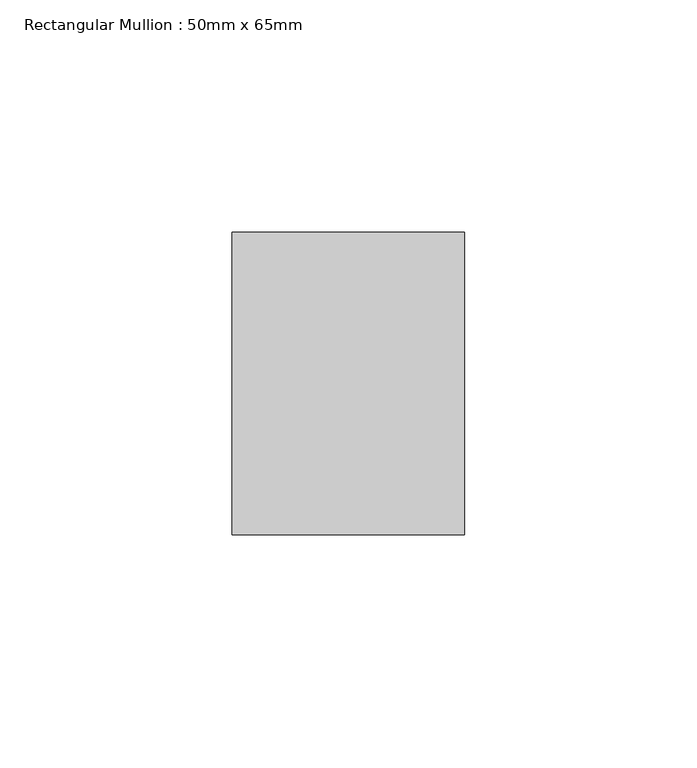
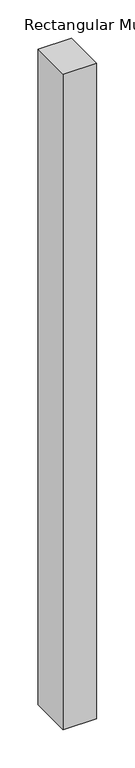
"""IFC4 building model written with IfcOpenShell, lengths in millimetres: member geometry, Rectangular Mullion : 50mm x 65mm."""

from ifc_helpers import new_model, si_unit, frame, origin, place, context, project, spatial, polyline, outline, extrude, source, transform, mapped, element, save


def rectangular_mullion_50mm_x_65mm_85f5c3ba(model_context):
    return source(origin(), model_context, "Body", "SweptSolid", [
        extrude(outline(polyline([(0.0, 32.5), (0.0, -32.5), (-50.0, -32.5), (-50.0, 32.5), (0.0, 32.5)])), frame((0.0, 0.0, -1041.3195333), z_axis=(0.0, 0.0, 1.0), x_axis=(1.0, 0.0, 0.0)), (0.0, 0.0, 1.0), 1041.3195333),
    ])


if __name__ == "__main__":
    model = new_model("IFC4")
    model_context = context("Model", 3, world=origin())
    ifc_project = project(units=[si_unit("LENGTHUNIT", "METRE", prefix="MILLI")], contexts=[model_context])
    site = spatial("IfcSite", under=ifc_project)
    building = spatial("IfcBuilding", under=site)
    placement = place(None, origin())
    rectangular_mullion_50mm_x_65mm_shape = rectangular_mullion_50mm_x_65mm_85f5c3ba(model_context)
    element("IfcMember", 1, ObjectType="Rectangular Mullion : 50mm x 65mm", at=placement, inside=building, context=model_context, shape_type="MappedRepresentation", body=[
        mapped(rectangular_mullion_50mm_x_65mm_shape, transform((0.0, 0.0, 0.0), x_axis=(1.0, 0.0, 0.0), y_axis=(0.0, 1.0, 0.0), z_axis=(0.0, 0.0, 1.0))),
    ])
    save(model, "model.ifc")
